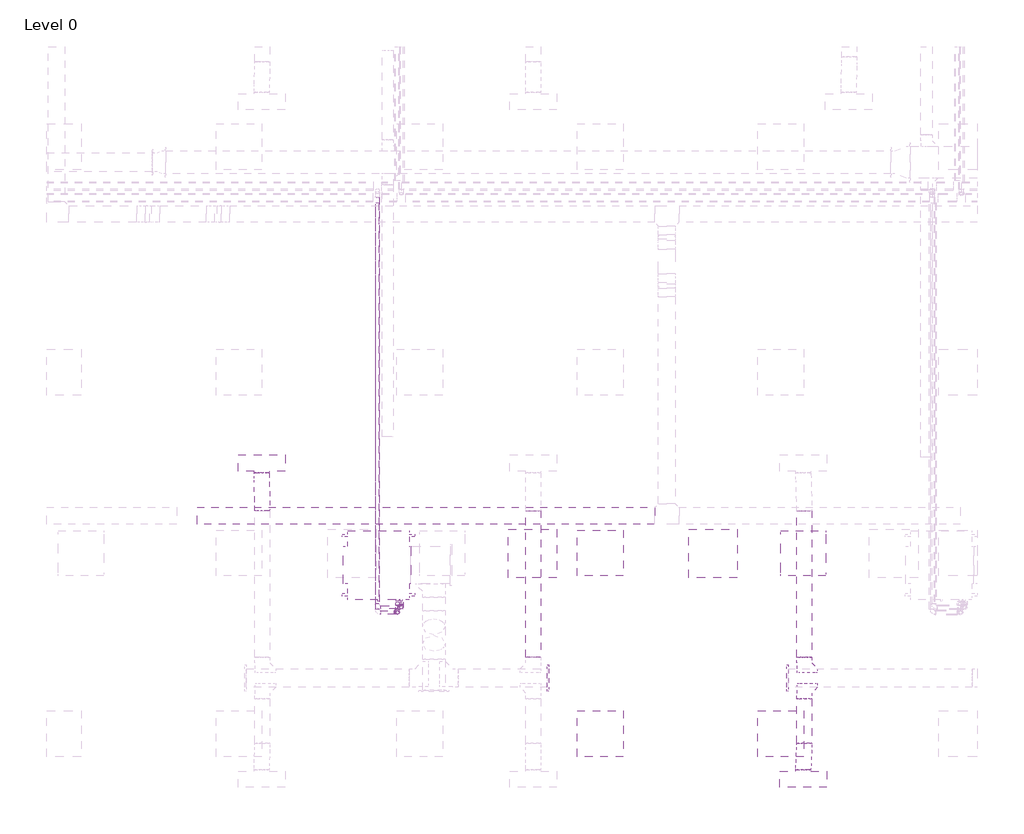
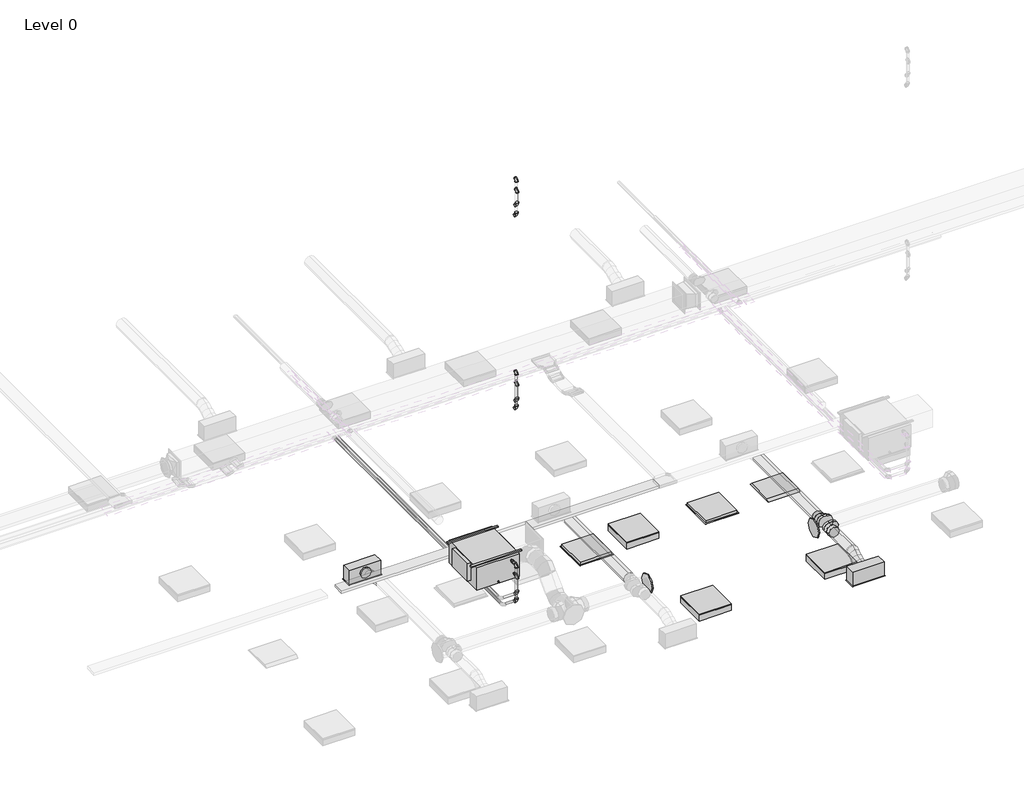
# One storey, part 9 of 34: 14 pipe fittings, 11 pipe segments, 5 duct segments, 4 air terminals, 4 duct fittings, 4 light fixtures, 1 cable carrier segment, 1 proxy.
"""IFC4 building model written with IfcOpenShell, lengths in millimetres."""

from ifc_helpers import new_model, si_unit, point, frame, frame_2d, origin, place, context, project, spatial, polyline, circle_curve, ellipse_curve, trimmed, segment, composite_curve, outline, extrude, transform, mapped, element, save
from ifc_brep_helpers import plane_surface, cylinder_surface, advanced_brep
from components import return_grille_rectangular_hosted_standard_7b12617c, supply_diffuser_with_plenum_linear_slot_hosted_2b730595, fan_coil_unit_ceiling_ducted_chw_376_lps_d7d55c98, dw144_round_blank_end_standard_9aa061e7, dw144_round_shoe_branch_slip_joint1_standard_2_15a2edd8, light_fixture_b730b5ca, troffer_light_2x2_parabolic_2_x2_2_lamp_120v_6a063ff3, elbow_threaded_gmi_standard_b4aa7741, socket_reducing_threaded_gmi_standard_0a4076b8

model = new_model("IFC4")

# Units and contexts
model_context = context("Model", 3, world=origin())
ifc_project = project(units=[si_unit("LENGTHUNIT", "METRE", prefix="MILLI")], contexts=[model_context])

# Site, building, storey
site = spatial("IfcSite", under=ifc_project)
building = spatial("IfcBuilding", under=site)
storey = spatial("IfcBuildingStorey", under=building, Name="Level 0", Elevation=0.0)

# Air terminals
placement = place(None, origin())
return_grille_rectangular_hosted_standard_shape = return_grille_rectangular_hosted_standard_7b12617c(model_context)
element("IfcAirTerminal", 1, ObjectType="Return Grille - Rectangular - Hosted : Standard", at=placement, inside=storey, context=model_context, shape_type="MappedRepresentation", body=[
    mapped(return_grille_rectangular_hosted_standard_shape, transform((19962.2000027, 3963.2000004, 2800.0), x_axis=(1.0, 0.0, 0.0), y_axis=(0.0, -1.0, 0.0), z_axis=(0.0, 0.0, -1.0))),
])
element("IfcAirTerminal", 2, ObjectType="Return Grille - Rectangular - Hosted : Standard", at=placement, inside=storey, context=model_context, shape_type="MappedRepresentation", body=[
    mapped(return_grille_rectangular_hosted_standard_shape, transform((22362.2000027, 3963.2000004, 2800.0), x_axis=(0.0, -1.0, 0.0), y_axis=(-1.0, 0.0, 0.0), z_axis=(0.0, 0.0, -1.0))),
])
supply_diffuser_with_plenum_linear_slot_hosted_shape = supply_diffuser_with_plenum_linear_slot_hosted_2b730595(model_context)
element("IfcAirTerminal", 3, ObjectType="Supply Diffuser with Plenum - Linear Slot - Hosted : 24\" x 8\"-200 In Inlet  4-Slot", at=placement, inside=storey, context=model_context, shape_type="MappedRepresentation", body=[
    mapped(supply_diffuser_with_plenum_linear_slot_hosted_shape, transform((23562.2000027, 963.2000004, 2800.0), x_axis=(1.0, 0.0, 0.0), y_axis=(0.0, -1.0, 0.0), z_axis=(0.0, 0.0, -1.0))),
])
element("IfcAirTerminal", 4, ObjectType="Supply Diffuser with Plenum - Linear Slot - Hosted : 24\" x 8\"-200 In Inlet  4-Slot", at=placement, inside=storey, context=model_context, shape_type="MappedRepresentation", body=[
    mapped(supply_diffuser_with_plenum_linear_slot_hosted_shape, transform((16362.2000027, 5163.2000004, 2800.0), x_axis=(-1.0, 0.0, 0.0), y_axis=(0.0, 1.0, 0.0), z_axis=(0.0, 0.0, -1.0))),
])

# Proxy
fan_coil_unit_ceiling_ducted_chw_376_lps_shape = fan_coil_unit_ceiling_ducted_chw_376_lps_d7d55c98(model_context)
element("IfcBuildingElementProxy", 5, Name="Fan Coil Unit - Ceiling Ducted - CHW : 376 LPS", ObjectType="Fan Coil Unit - Ceiling Ducted - CHW : 376 LPS", at=placement, inside=storey, context=model_context, shape_type="MappedRepresentation", body=[
    mapped(fan_coil_unit_ceiling_ducted_chw_376_lps_shape, transform((18321.2561025, 4263.2000004, 3222.3911538), x_axis=(0.0, -1.0, 0.0), y_axis=(1.0, 0.0, 0.0), z_axis=(0.0, 0.0, 1.0))),
])

# Cable carrier segment
element("IfcCableCarrierSegment", 6, ObjectType="Perforated Cable Tray", at=placement, inside=storey, context=model_context, shape_type="SweptSolid", body=[
    extrude(outline(polyline([(21585.0028601, 4572.4103775), (21585.0028601, 4347.4103775), (15505.0028601, 4347.4103775), (15505.0028601, 4572.4103775), (21585.0028601, 4572.4103775)])), frame((0.0, 0.0, 3250.0), z_axis=(0.0, 0.0, 1.0), x_axis=(1.0, 0.0, 0.0)), (0.0, 0.0, 1.0), 50.0),
])

# Duct fittings
dw144_round_blank_end_standard_shape = dw144_round_blank_end_standard_9aa061e7(model_context)
element("IfcDuctFitting", 7, ObjectType="DW144 Round Blank End : Standard", at=placement, inside=storey, context=model_context, shape_type="MappedRepresentation", body=[
    mapped(dw144_round_blank_end_standard_shape, transform((20161.4561025, 2306.5018192, 3072.2088531), x_axis=(1.0, 0.0, 0.0), y_axis=(0.0, 1.0, 0.0), z_axis=(0.0, 0.0, 1.0))),
])
element("IfcDuctFitting", 8, ObjectType="DW144 Round Blank End : Standard", at=placement, inside=storey, context=model_context, shape_type="MappedRepresentation", body=[
    mapped(dw144_round_blank_end_standard_shape, transform((23361.4561025, 2306.5018192, 3072.2088531), x_axis=(-1.0, 0.0, 0.0), y_axis=(0.0, -1.0, 0.0), z_axis=(0.0, 0.0, 1.0))),
])
dw144_round_shoe_branch_slip_joint1_standard_2_shape = dw144_round_shoe_branch_slip_joint1_standard_2_15a2edd8(model_context)
element("IfcDuctFitting", 9, ObjectType="DW144 Round Shoe Branch - Slip Joint1 : Standard 2", at=placement, inside=storey, context=model_context, shape_type="MappedRepresentation", body=[
    mapped(dw144_round_shoe_branch_slip_joint1_standard_2_shape, transform((23573.9000022, 2181.5018192, 3072.2088531), x_axis=(0.0, -1.0, 0.0), y_axis=(-1.0, 0.0, 0.0), z_axis=(0.0, 0.0, -1.0))),
])
element("IfcDuctFitting", 10, ObjectType="DW144 Round Shoe Branch - Slip Joint1 : Standard 2", at=placement, inside=storey, context=model_context, shape_type="MappedRepresentation", body=[
    mapped(dw144_round_shoe_branch_slip_joint1_standard_2_shape, transform((23573.9000022, 2431.5018192, 3072.2088531), x_axis=(0.0, 1.0, 0.0), y_axis=(-1.0, 0.0, 0.0), z_axis=(0.0, 0.0, 1.0))),
])

# Duct segments
element("IfcDuctSegment", 11, ObjectType="DW144 Segmented Bend / Shoe Branch", at=placement, inside=storey, context=model_context, shape_type="SweptSolid", body=[
    extrude(outline(composite_curve([segment(trimmed(circle_curve(frame_2d((3072.2088531, 19973.9000022)), 100.0), [point((3072.2088531, 20073.9000022))], [point((3172.2088531, 19973.9000022))], False, "CARTESIAN"), True, "CONTINUOUS"), segment(trimmed(circle_curve(frame_2d((3072.2088531, 19973.9000022)), 100.0), [point((3172.2088531, 19973.9000022))], [point((3072.2088531, 19873.9000022))], False, "CARTESIAN"), True, "CONTINUOUS"), segment(trimmed(circle_curve(frame_2d((3072.2088531, 19973.9000022)), 100.0), [point((3072.2088531, 19873.9000022))], [point((2972.2088531, 19973.9000022))], False, "CARTESIAN"), True, "CONTINUOUS"), segment(trimmed(circle_curve(frame_2d((3072.2088531, 19973.9000022)), 100.0), [point((2972.2088531, 19973.9000022))], [point((3072.2088531, 20073.9000022))], False, "CARTESIAN"), True, "CONTINUOUS")], self_intersect=False)), frame((0.0, 2581.5018192, 0.0), z_axis=(0.0, 1.0, 0.0), x_axis=(0.0, 0.0, 1.0)), (0.0, 0.0, 1.0), 1950.0),
])
element("IfcDuctSegment", 12, ObjectType="DW144 Segmented Bend / Shoe Branch", at=placement, inside=storey, context=model_context, shape_type="SweptSolid", body=[
    extrude(outline(composite_curve([segment(trimmed(circle_curve(frame_2d((3072.2088531, 23573.9000022)), 100.0), [point((3072.2088531, 23673.9000022))], [point((3172.2088531, 23573.9000022))], False, "CARTESIAN"), True, "CONTINUOUS"), segment(trimmed(circle_curve(frame_2d((3072.2088531, 23573.9000022)), 100.0), [point((3172.2088531, 23573.9000022))], [point((3072.2088531, 23473.9000022))], False, "CARTESIAN"), True, "CONTINUOUS"), segment(trimmed(circle_curve(frame_2d((3072.2088531, 23573.9000022)), 100.0), [point((3072.2088531, 23473.9000022))], [point((2972.2088531, 23573.9000022))], False, "CARTESIAN"), True, "CONTINUOUS"), segment(trimmed(circle_curve(frame_2d((3072.2088531, 23573.9000022)), 100.0), [point((2972.2088531, 23573.9000022))], [point((3072.2088531, 23673.9000022))], False, "CARTESIAN"), True, "CONTINUOUS")], self_intersect=False)), frame((0.0, 1441.5018192, 0.0), z_axis=(0.0, 1.0, 0.0), x_axis=(0.0, 0.0, 1.0)), (0.0, 0.0, 1.0), 590.0),
])
element("IfcDuctSegment", 13, ObjectType="DW144 Segmented Bend / Shoe Branch", at=placement, inside=storey, context=model_context, shape_type="SweptSolid", body=[
    extrude(outline(composite_curve([segment(trimmed(circle_curve(frame_2d((3072.2088531, 23573.9000022)), 100.0), [point((3072.2088531, 23673.9000022))], [point((3172.2088531, 23573.9000022))], False, "CARTESIAN"), True, "CONTINUOUS"), segment(trimmed(circle_curve(frame_2d((3072.2088531, 23573.9000022)), 100.0), [point((3172.2088531, 23573.9000022))], [point((3072.2088531, 23473.9000022))], False, "CARTESIAN"), True, "CONTINUOUS"), segment(trimmed(circle_curve(frame_2d((3072.2088531, 23573.9000022)), 100.0), [point((3072.2088531, 23473.9000022))], [point((2972.2088531, 23573.9000022))], False, "CARTESIAN"), True, "CONTINUOUS"), segment(trimmed(circle_curve(frame_2d((3072.2088531, 23573.9000022)), 100.0), [point((2972.2088531, 23573.9000022))], [point((3072.2088531, 23673.9000022))], False, "CARTESIAN"), True, "CONTINUOUS")], self_intersect=False)), frame((0.0, 2581.5018192, 0.0), z_axis=(0.0, 1.0, 0.0), x_axis=(0.0, 0.0, 1.0)), (0.0, 0.0, 1.0), 1950.0),
])
element("IfcDuctSegment", 14, ObjectType="Flex - Round", at=placement, inside=storey, context=model_context, shape_type="AdvancedBrep", body=[
    advanced_brep(
    [(16273.9000022, 4531.5018192, 3072.2088531), (16373.9000022, 4531.5018192, 2972.2088531), (16473.9000022, 4531.5018192, 3072.2088531), (16373.9000022, 4531.5018192, 3172.2088531), (16273.9000022, 4544.9917141, 3072.2088531), (16373.9000022, 4537.7147353, 2972.2088531), (16473.9000022, 4546.5964935, 3072.2088531), (16373.9000022, 4553.8734723, 3172.2088531), (16262.2000027, 5036.2000004, 2954.4), (16362.2000027, 5036.2000004, 3054.4), (16462.2000027, 5036.2000004, 2954.4), (16362.2000027, 5036.2000004, 2854.4), (16272.0967445, 4656.6189403, 3054.0516107), (16372.3222682, 4635.3813467, 2956.322439), (16472.0470101, 4661.3024295, 3053.5508289), (16371.8214864, 4682.5400231, 3151.2800006), (16268.0980601, 4780.789038, 3013.7883253), (16368.5339011, 4753.0205151, 2918.1768669), (16468.0019448, 4786.9127816, 3012.8205279), (16367.5661038, 4814.6813046, 3108.4319862), (16264.0529948, 4906.3993902, 2973.0580242), (16364.2785185, 4885.1617966, 2875.3288525), (16464.0032604, 4911.0828794, 2972.5572424), (16363.7777367, 4932.320473, 3070.2864141), (16262.2000027, 5021.1053262, 2954.4), (16362.2000027, 5013.8283474, 2854.4), (16462.2000027, 5022.7101055, 2954.4), (16362.2000027, 5029.9870843, 3054.4)],
    [
        (0, 1, circle_curve(frame((16373.9000022, 4531.5018192, 3072.2088531), z_axis=(0.0, -1.0, 0.0), x_axis=(-1.0, 0.0, 0.0)), 100.0)),
        (1, 2, circle_curve(frame((16373.9000022, 4531.5018192, 3072.2088531), z_axis=(0.0, -1.0, 0.0), x_axis=(-1.0, 0.0, 0.0)), 100.0)),
        (2, 3, circle_curve(frame((16373.9000022, 4531.5018192, 3072.2088531), z_axis=(0.0, -1.0, 0.0), x_axis=(-1.0, 0.0, 0.0)), 100.0)),
        (3, 0, circle_curve(frame((16373.9000022, 4531.5018192, 3072.2088531), z_axis=(0.0, -1.0, 0.0), x_axis=(-1.0, 0.0, 0.0)), 100.0)),
        (0, 4),
        (4, 5, ellipse_curve(frame((16373.9000022, 4545.7941038, 3072.2088531), z_axis=(0.007997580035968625, -0.996720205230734, 0.08052869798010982), x_axis=(-0.0985031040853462, -0.08092485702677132, -0.9918408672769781)), 100.3290587, 100.0)),
        (5, 1),
        (5, 6, ellipse_curve(frame((16373.9000022, 4545.7941038, 3072.2088531), z_axis=(0.007997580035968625, -0.996720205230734, 0.08052869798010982), x_axis=(-0.0985031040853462, -0.08092485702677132, -0.9918408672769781)), 100.3290587, 100.0)),
        (6, 2),
        (6, 7, ellipse_curve(frame((16373.9000022, 4545.7941038, 3072.2088531), z_axis=(0.007997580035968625, -0.996720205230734, 0.08052869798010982), x_axis=(-0.0985031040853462, -0.08092485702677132, -0.9918408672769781)), 100.3290587, 100.0)),
        (7, 3),
        (7, 4, ellipse_curve(frame((16373.9000022, 4545.7941038, 3072.2088531), z_axis=(0.007997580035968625, -0.996720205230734, 0.08052869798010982), x_axis=(-0.0985031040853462, -0.08092485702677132, -0.9918408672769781)), 100.3290587, 100.0)),
        (8, 9, circle_curve(frame((16362.2000027, 5036.2000004, 2954.4), z_axis=(0.0, 1.0, 0.0), x_axis=(-1.0, 0.0, 0.0)), 100.0)),
        (9, 10, circle_curve(frame((16362.2000027, 5036.2000004, 2954.4), z_axis=(0.0, 1.0, 0.0), x_axis=(-1.0, 0.0, 0.0)), 100.0)),
        (10, 11, circle_curve(frame((16362.2000027, 5036.2000004, 2954.4), z_axis=(0.0, 1.0, 0.0), x_axis=(-1.0, 0.0, 0.0)), 100.0)),
        (11, 8, circle_curve(frame((16362.2000027, 5036.2000004, 2954.4), z_axis=(0.0, 1.0, 0.0), x_axis=(-1.0, 0.0, 0.0)), 100.0)),
        (4, 12),
        (12, 13, ellipse_curve(frame((16372.0718773, 4658.9606849, 3053.8012198), z_axis=(0.0233489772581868, -0.9716897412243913, 0.2351039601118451), x_axis=(-0.09602941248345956, -0.23626054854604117, -0.9669329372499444)), 100.2932412, 100.0)),
        (13, 5),
        (13, 14, ellipse_curve(frame((16372.0718773, 4658.9606849, 3053.8012198), z_axis=(0.0233489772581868, -0.9716897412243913, 0.2351039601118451), x_axis=(-0.09602941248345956, -0.23626054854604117, -0.9669329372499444)), 100.2932412, 100.0)),
        (14, 6),
        (14, 15, ellipse_curve(frame((16372.0718773, 4658.9606849, 3053.8012198), z_axis=(0.0233489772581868, -0.9716897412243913, 0.2351039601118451), x_axis=(-0.09602941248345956, -0.23626054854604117, -0.9669329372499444)), 100.2932412, 100.0)),
        (15, 7),
        (15, 12, ellipse_curve(frame((16372.0718773, 4658.9606849, 3053.8012198), z_axis=(0.0233489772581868, -0.9716897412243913, 0.2351039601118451), x_axis=(-0.09602941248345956, -0.23626054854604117, -0.9669329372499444)), 100.2932412, 100.0)),
        (12, 16),
        (16, 17, circle_curve(frame((16368.0500024, 4783.8509098, 3013.3044266), z_axis=(0.030618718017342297, -0.9507950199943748, 0.3083039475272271), x_axis=(-0.9995194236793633, -0.03061871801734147, 0.004838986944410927)), 100.0)),
        (17, 13),
        (17, 18, circle_curve(frame((16368.0500024, 4783.8509098, 3013.3044266), z_axis=(0.030618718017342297, -0.9507950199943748, 0.3083039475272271), x_axis=(-0.9995194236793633, -0.03061871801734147, 0.004838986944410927)), 100.0)),
        (18, 14),
        (18, 19, circle_curve(frame((16368.0500024, 4783.8509098, 3013.3044266), z_axis=(0.030618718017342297, -0.9507950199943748, 0.3083039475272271), x_axis=(-0.9995194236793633, -0.03061871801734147, 0.004838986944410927)), 100.0)),
        (19, 15),
        (19, 16, circle_curve(frame((16368.0500024, 4783.8509098, 3013.3044266), z_axis=(0.030618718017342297, -0.9507950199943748, 0.3083039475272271), x_axis=(-0.9995194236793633, -0.03061871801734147, 0.004838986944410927)), 100.0)),
        (16, 20),
        (20, 21, ellipse_curve(frame((16364.0281276, 4908.7411348, 2972.8076333), z_axis=(0.02334897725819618, -0.9716897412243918, 0.2351039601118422), x_axis=(0.09602941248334, 0.23626054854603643, 0.9669329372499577)), 100.2932412, 100.0)),
        (21, 17),
        (21, 22, ellipse_curve(frame((16364.0281276, 4908.7411348, 2972.8076333), z_axis=(0.02334897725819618, -0.9716897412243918, 0.2351039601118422), x_axis=(0.09602941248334, 0.23626054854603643, 0.9669329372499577)), 100.2932412, 100.0)),
        (22, 18),
        (22, 23, ellipse_curve(frame((16364.0281276, 4908.7411348, 2972.8076333), z_axis=(0.02334897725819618, -0.9716897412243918, 0.2351039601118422), x_axis=(0.09602941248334, 0.23626054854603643, 0.9669329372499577)), 100.2932412, 100.0)),
        (23, 19),
        (23, 20, ellipse_curve(frame((16364.0281276, 4908.7411348, 2972.8076333), z_axis=(0.02334897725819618, -0.9716897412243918, 0.2351039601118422), x_axis=(0.09602941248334, 0.23626054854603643, 0.9669329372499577)), 100.2932412, 100.0)),
        (20, 24),
        (24, 25, ellipse_curve(frame((16362.2000027, 5021.9077159, 2954.4), z_axis=(0.007997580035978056, -0.9967202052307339, 0.08052869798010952), x_axis=(0.09850310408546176, 0.08092485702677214, 0.9918408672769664)), 100.3290587, 100.0)),
        (25, 21),
        (25, 26, ellipse_curve(frame((16362.2000027, 5021.9077159, 2954.4), z_axis=(0.007997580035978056, -0.9967202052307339, 0.08052869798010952), x_axis=(0.09850310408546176, 0.08092485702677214, 0.9918408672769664)), 100.3290587, 100.0)),
        (26, 22),
        (26, 27, ellipse_curve(frame((16362.2000027, 5021.9077159, 2954.4), z_axis=(0.007997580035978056, -0.9967202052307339, 0.08052869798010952), x_axis=(0.09850310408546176, 0.08092485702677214, 0.9918408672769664)), 100.3290587, 100.0)),
        (27, 23),
        (27, 24, ellipse_curve(frame((16362.2000027, 5021.9077159, 2954.4), z_axis=(0.007997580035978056, -0.9967202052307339, 0.08052869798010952), x_axis=(0.09850310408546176, 0.08092485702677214, 0.9918408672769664)), 100.3290587, 100.0)),
        (24, 8),
        (11, 25),
        (10, 26),
        (9, 27),
    ],
    [
        plane_surface(frame((16273.9000022, 4531.5018192, 3072.2088531), z_axis=(0.0, -1.0, 0.0), x_axis=(0.0, 0.0, 1.0))),
        cylinder_surface(frame((16373.9000022, 4531.5018192, 3072.2088531), z_axis=(0.0, -1.0, 0.0), x_axis=(-1.0, 0.0, 0.0)), 100.0),
        plane_surface(frame((16262.2000027, 5036.2000004, 2954.4), z_axis=(0.0, 1.0, 0.0), x_axis=(0.0, 0.0, 1.0))),
        cylinder_surface(frame((16373.9000022, 4545.7941038, 3072.2088531), z_axis=(0.01594269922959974, -0.9869023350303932, 0.16052916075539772), x_axis=(-0.9998720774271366, -0.01594269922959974, 0.0012880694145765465)), 100.0),
        cylinder_surface(frame((16372.0718773, 4658.9606849, 3053.8012198), z_axis=(0.030618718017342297, -0.9507950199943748, 0.3083039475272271), x_axis=(-0.9995194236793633, -0.03061871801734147, 0.004838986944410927)), 100.0),
        cylinder_surface(frame((16368.0500024, 4783.8509098, 3013.3044266), z_axis=(0.030618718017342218, -0.9507950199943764, 0.30830394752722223), x_axis=(-0.9995194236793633, -0.03061871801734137, 0.0048389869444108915)), 100.0),
        cylinder_surface(frame((16364.0281276, 4908.7411348, 2972.8076333), z_axis=(0.015942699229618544, -0.9869023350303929, 0.16052916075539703), x_axis=(-0.9998720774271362, -0.015942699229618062, 0.001288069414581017)), 100.0),
        cylinder_surface(frame((16362.2000027, 5021.9077159, 2954.4), z_axis=(0.0, -1.0, 0.0), x_axis=(-1.0, 0.0, 0.0)), 100.0),
    ],
    [
        (0, [[1, 2, 3, 4]]),
        (1, [[-1, 5, 6, 7]]),
        (1, [[-2, -7, 8, 9]]),
        (1, [[-3, -9, 10, 11]]),
        (1, [[-4, -11, 12, -5]]),
        (2, [[13, 14, 15, 16]]),
        (3, [[-6, 17, 18, 19]]),
        (3, [[-8, -19, 20, 21]]),
        (3, [[-10, -21, 22, 23]]),
        (3, [[-12, -23, 24, -17]]),
        (4, [[-18, 25, 26, 27]]),
        (4, [[-20, -27, 28, 29]]),
        (4, [[-22, -29, 30, 31]]),
        (4, [[-24, -31, 32, -25]]),
        (5, [[-26, 33, 34, 35]]),
        (5, [[-28, -35, 36, 37]]),
        (5, [[-30, -37, 38, 39]]),
        (5, [[-32, -39, 40, -33]]),
        (6, [[-34, 41, 42, 43]]),
        (6, [[-36, -43, 44, 45]]),
        (6, [[-38, -45, 46, 47]]),
        (6, [[-40, -47, 48, -41]]),
        (7, [[-42, 49, -16, 50]]),
        (7, [[-44, -50, -15, 51]]),
        (7, [[-46, -51, -14, 52]]),
        (7, [[-48, -52, -13, -49]]),
    ],
),
])
element("IfcDuctSegment", 15, ObjectType="Flex - Round", at=placement, inside=storey, context=model_context, shape_type="AdvancedBrep", body=[
    advanced_brep(
    [(23673.9000022, 1441.5018192, 3072.2088531), (23573.9000022, 1441.5018192, 2972.2088531), (23473.9000022, 1441.5018192, 3072.2088531), (23573.9000022, 1441.5018192, 3172.2088531), (23673.9000022, 1420.0995917, 3072.2088531), (23573.9000022, 1434.401614, 2972.2088531), (23473.9000022, 1422.6837186, 3072.2088531), (23573.9000022, 1408.3816962, 3172.2088531), (23662.2000027, 1090.2000004, 2954.4), (23562.2000027, 1090.2000004, 3054.4), (23462.2000027, 1090.2000004, 2954.4), (23562.2000027, 1090.2000004, 2854.4), (23672.0161428, 1348.4444846, 3053.2400219), (23572.6330752, 1386.2123534, 2959.4519962), (23472.1276118, 1355.2684822, 3054.3624177), (23571.5106794, 1317.5006134, 3148.1504435), (23667.9561574, 1261.6239384, 3012.3594887), (23568.9949403, 1308.4128474, 2922.8191318), (23468.1438475, 1270.0778812, 3014.2493644), (23567.1050646, 1223.2889723, 3103.7897213), (23663.9723931, 1176.4333374, 2972.2464354), (23564.5893255, 1214.2012062, 2878.4584097), (23464.0838621, 1183.257335, 2973.3688312), (23563.4669297, 1145.4894662, 3067.1568569), (23662.2000027, 1109.0181011, 2954.4), (23562.2000027, 1123.3201234, 2854.4), (23462.2000027, 1111.602228, 2954.4), (23562.2000027, 1097.3002057, 3054.4)],
    [
        (0, 1, circle_curve(frame((23573.9000022, 1441.5018192, 3072.2088531), z_axis=(0.0, 1.0, 0.0), x_axis=(1.0, 0.0, 0.0)), 100.0)),
        (1, 2, circle_curve(frame((23573.9000022, 1441.5018192, 3072.2088531), z_axis=(0.0, 1.0, 0.0), x_axis=(1.0, 0.0, 0.0)), 100.0)),
        (2, 3, circle_curve(frame((23573.9000022, 1441.5018192, 3072.2088531), z_axis=(0.0, 1.0, 0.0), x_axis=(1.0, 0.0, 0.0)), 100.0)),
        (3, 0, circle_curve(frame((23573.9000022, 1441.5018192, 3072.2088531), z_axis=(0.0, 1.0, 0.0), x_axis=(1.0, 0.0, 0.0)), 100.0)),
        (0, 4),
        (4, 5, ellipse_curve(frame((23573.9000022, 1421.3916551, 3072.2088531), z_axis=(0.01281160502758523, 0.9915616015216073, 0.1290017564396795), x_axis=(-0.097993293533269, 0.12963637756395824, -0.9867075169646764)), 100.8510211, 100.0)),
        (5, 1),
        (5, 6, ellipse_curve(frame((23573.9000022, 1421.3916551, 3072.2088531), z_axis=(0.01281160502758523, 0.9915616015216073, 0.1290017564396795), x_axis=(-0.097993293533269, 0.12963637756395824, -0.9867075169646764)), 100.8510211, 100.0)),
        (6, 2),
        (6, 7, ellipse_curve(frame((23573.9000022, 1421.3916551, 3072.2088531), z_axis=(0.01281160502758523, 0.9915616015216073, 0.1290017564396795), x_axis=(-0.097993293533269, 0.12963637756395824, -0.9867075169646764)), 100.8510211, 100.0)),
        (7, 3),
        (7, 4, ellipse_curve(frame((23573.9000022, 1421.3916551, 3072.2088531), z_axis=(0.01281160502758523, 0.9915616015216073, 0.1290017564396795), x_axis=(-0.097993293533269, 0.12963637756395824, -0.9867075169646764)), 100.8510211, 100.0)),
        (8, 9, circle_curve(frame((23562.2000027, 1090.2000004, 2954.4), z_axis=(0.0, -1.0, 0.0), x_axis=(1.0, 0.0, 0.0)), 100.0)),
        (9, 10, circle_curve(frame((23562.2000027, 1090.2000004, 2954.4), z_axis=(0.0, -1.0, 0.0), x_axis=(1.0, 0.0, 0.0)), 100.0)),
        (10, 11, circle_curve(frame((23562.2000027, 1090.2000004, 2954.4), z_axis=(0.0, -1.0, 0.0), x_axis=(1.0, 0.0, 0.0)), 100.0)),
        (11, 8, circle_curve(frame((23562.2000027, 1090.2000004, 2954.4), z_axis=(0.0, -1.0, 0.0), x_axis=(1.0, 0.0, 0.0)), 100.0)),
        (4, 12),
        (12, 13, ellipse_curve(frame((23572.0718773, 1351.8564834, 3053.8012198), z_axis=(0.03397887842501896, 0.9390352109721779, 0.34213784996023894), x_axis=(-0.09280225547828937, 0.34382098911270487, -0.9344382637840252)), 100.4152859, 100.0)),
        (13, 5),
        (13, 14, ellipse_curve(frame((23572.0718773, 1351.8564834, 3053.8012198), z_axis=(0.03397887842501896, 0.9390352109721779, 0.34213784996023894), x_axis=(-0.09280225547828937, 0.34382098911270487, -0.9344382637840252)), 100.4152859, 100.0)),
        (14, 6),
        (14, 15, ellipse_curve(frame((23572.0718773, 1351.8564834, 3053.8012198), z_axis=(0.03397887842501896, 0.9390352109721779, 0.34213784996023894), x_axis=(-0.09280225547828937, 0.34382098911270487, -0.9344382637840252)), 100.4152859, 100.0)),
        (15, 7),
        (15, 12, ellipse_curve(frame((23572.0718773, 1351.8564834, 3053.8012198), z_axis=(0.03397887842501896, 0.9390352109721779, 0.34213784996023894), x_axis=(-0.09280225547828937, 0.34382098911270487, -0.9344382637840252)), 100.4152859, 100.0)),
        (12, 16),
        (16, 17, circle_curve(frame((23568.0500024, 1265.8509098, 3013.3044266), z_axis=(0.042269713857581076, 0.9039144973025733, 0.42561937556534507), x_axis=(0.9990615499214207, -0.0422697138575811, -0.009449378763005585)), 100.0)),
        (17, 13),
        (17, 18, circle_curve(frame((23568.0500024, 1265.8509098, 3013.3044266), z_axis=(0.042269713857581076, 0.9039144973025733, 0.42561937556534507), x_axis=(0.9990615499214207, -0.0422697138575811, -0.009449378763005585)), 100.0)),
        (18, 14),
        (18, 19, circle_curve(frame((23568.0500024, 1265.8509098, 3013.3044266), z_axis=(0.042269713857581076, 0.9039144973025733, 0.42561937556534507), x_axis=(0.9990615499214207, -0.0422697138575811, -0.009449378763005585)), 100.0)),
        (19, 15),
        (19, 16, circle_curve(frame((23568.0500024, 1265.8509098, 3013.3044266), z_axis=(0.042269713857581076, 0.9039144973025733, 0.42561937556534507), x_axis=(0.9990615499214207, -0.0422697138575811, -0.009449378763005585)), 100.0)),
        (16, 20),
        (20, 21, ellipse_curve(frame((23564.0281276, 1179.8453362, 2972.8076333), z_axis=(0.03397887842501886, 0.9390352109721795, 0.3421378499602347), x_axis=(0.09280225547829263, -0.3438209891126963, 0.9344382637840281)), 100.4152859, 100.0)),
        (21, 17),
        (21, 22, ellipse_curve(frame((23564.0281276, 1179.8453362, 2972.8076333), z_axis=(0.03397887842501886, 0.9390352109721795, 0.3421378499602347), x_axis=(0.09280225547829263, -0.3438209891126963, 0.9344382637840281)), 100.4152859, 100.0)),
        (22, 18),
        (22, 23, ellipse_curve(frame((23564.0281276, 1179.8453362, 2972.8076333), z_axis=(0.03397887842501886, 0.9390352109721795, 0.3421378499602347), x_axis=(0.09280225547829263, -0.3438209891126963, 0.9344382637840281)), 100.4152859, 100.0)),
        (23, 19),
        (23, 20, ellipse_curve(frame((23564.0281276, 1179.8453362, 2972.8076333), z_axis=(0.03397887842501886, 0.9390352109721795, 0.3421378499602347), x_axis=(0.09280225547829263, -0.3438209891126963, 0.9344382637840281)), 100.4152859, 100.0)),
        (20, 24),
        (24, 25, ellipse_curve(frame((23562.2000027, 1110.3101645, 2954.4), z_axis=(0.012811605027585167, 0.9915616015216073, 0.1290017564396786), x_axis=(0.09799329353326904, -0.12963637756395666, 0.9867075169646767)), 100.8510211, 100.0)),
        (25, 21),
        (25, 26, ellipse_curve(frame((23562.2000027, 1110.3101645, 2954.4), z_axis=(0.012811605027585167, 0.9915616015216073, 0.1290017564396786), x_axis=(0.09799329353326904, -0.12963637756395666, 0.9867075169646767)), 100.8510211, 100.0)),
        (26, 22),
        (26, 27, ellipse_curve(frame((23562.2000027, 1110.3101645, 2954.4), z_axis=(0.012811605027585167, 0.9915616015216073, 0.1290017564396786), x_axis=(0.09799329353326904, -0.12963637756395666, 0.9867075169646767)), 100.8510211, 100.0)),
        (27, 23),
        (27, 24, ellipse_curve(frame((23562.2000027, 1110.3101645, 2954.4), z_axis=(0.012811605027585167, 0.9915616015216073, 0.1290017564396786), x_axis=(0.09799329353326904, -0.12963637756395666, 0.9867075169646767)), 100.8510211, 100.0)),
        (24, 8),
        (11, 25),
        (10, 26),
        (9, 27),
    ],
    [
        plane_surface(frame((23473.9000022, 1441.5018192, 3072.2088531), z_axis=(0.0, 1.0, 0.0), x_axis=(0.0, 0.0, -1.0))),
        cylinder_surface(frame((23573.9000022, 1441.5018192, 3072.2088531), z_axis=(0.0, 1.0, 0.0), x_axis=(1.0, 0.0, 0.0)), 100.0),
        plane_surface(frame((23462.2000027, 1090.2000004, 2954.4), z_axis=(0.0, -1.0, 0.0), x_axis=(0.0, 0.0, -1.0))),
        cylinder_surface(frame((23573.9000022, 1421.3916551, 3072.2088531), z_axis=(0.025406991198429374, 0.9663888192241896, 0.25582637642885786), x_axis=(0.9996717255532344, -0.025406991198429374, -0.003305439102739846)), 100.0),
        cylinder_surface(frame((23572.0718773, 1351.8564834, 3053.8012198), z_axis=(0.042269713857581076, 0.9039144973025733, 0.42561937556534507), x_axis=(0.9990615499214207, -0.0422697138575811, -0.009449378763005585)), 100.0),
        cylinder_surface(frame((23568.0500024, 1265.8509098, 3013.3044266), z_axis=(0.042269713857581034, 0.9039144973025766, 0.4256193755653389), x_axis=(0.9990615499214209, -0.042269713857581, -0.00944937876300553)), 100.0),
        cylinder_surface(frame((23564.0281276, 1179.8453362, 2972.8076333), z_axis=(0.02540699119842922, 0.9663888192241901, 0.25582637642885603), x_axis=(0.9996717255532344, -0.02540699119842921, -0.003305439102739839)), 100.0),
        cylinder_surface(frame((23562.2000027, 1110.3101645, 2954.4), z_axis=(0.0, 1.0, 0.0), x_axis=(1.0, 0.0, 0.0)), 100.0),
    ],
    [
        (0, [[1, 2, 3, 4]]),
        (1, [[-1, 5, 6, 7]]),
        (1, [[-2, -7, 8, 9]]),
        (1, [[-3, -9, 10, 11]]),
        (1, [[-4, -11, 12, -5]]),
        (2, [[13, 14, 15, 16]]),
        (3, [[-6, 17, 18, 19]]),
        (3, [[-8, -19, 20, 21]]),
        (3, [[-10, -21, 22, 23]]),
        (3, [[-12, -23, 24, -17]]),
        (4, [[-18, 25, 26, 27]]),
        (4, [[-20, -27, 28, 29]]),
        (4, [[-22, -29, 30, 31]]),
        (4, [[-24, -31, 32, -25]]),
        (5, [[-26, 33, 34, 35]]),
        (5, [[-28, -35, 36, 37]]),
        (5, [[-30, -37, 38, 39]]),
        (5, [[-32, -39, 40, -33]]),
        (6, [[-34, 41, 42, 43]]),
        (6, [[-36, -43, 44, 45]]),
        (6, [[-38, -45, 46, 47]]),
        (6, [[-40, -47, 48, -41]]),
        (7, [[-42, 49, -16, 50]]),
        (7, [[-44, -50, -15, 51]]),
        (7, [[-46, -51, -14, 52]]),
        (7, [[-48, -52, -13, -49]]),
    ],
),
])

# Light fixtures
light_fixture_shape = light_fixture_b730b5ca(model_context)
element("IfcLightFixture", 16, ObjectType="ELEKTRA EM Recessed Lighting Fixture : 24\" x 24\" - 230", at=placement, inside=storey, context=model_context, shape_type="MappedRepresentation", body=[
    mapped(light_fixture_shape, transform((23262.2000027, 3663.2000004, 2800.0), x_axis=(1.0, 0.0, 0.0), y_axis=(0.0, -1.0, 0.0), z_axis=(0.0, 0.0, -1.0))),
])
troffer_light_2x2_parabolic_2_x2_2_lamp_120v_shape = troffer_light_2x2_parabolic_2_x2_2_lamp_120v_6a063ff3(model_context)
element("IfcLightFixture", 17, ObjectType="Troffer Light - 2x2 Parabolic : 2'x2'(2 Lamp) - 120V", at=placement, inside=storey, context=model_context, shape_type="MappedRepresentation", body=[
    mapped(troffer_light_2x2_parabolic_2_x2_2_lamp_120v_shape, transform((20862.2000027, 1263.2000004, 2800.0), x_axis=(1.0, 0.0, 0.0), y_axis=(0.0, -1.0, 0.0), z_axis=(0.0, 0.0, -1.0))),
])
element("IfcLightFixture", 18, ObjectType="Troffer Light - 2x2 Parabolic : 2'x2'(2 Lamp) - 120V", at=placement, inside=storey, context=model_context, shape_type="MappedRepresentation", body=[
    mapped(troffer_light_2x2_parabolic_2_x2_2_lamp_120v_shape, transform((23262.2000027, 1263.2000004, 2800.0), x_axis=(1.0, 0.0, 0.0), y_axis=(0.0, -1.0, 0.0), z_axis=(0.0, 0.0, -1.0))),
])
element("IfcLightFixture", 19, ObjectType="Troffer Light - 2x2 Parabolic : 2'x2'(2 Lamp) - 120V", at=placement, inside=storey, context=model_context, shape_type="MappedRepresentation", body=[
    mapped(troffer_light_2x2_parabolic_2_x2_2_lamp_120v_shape, transform((20862.2000027, 3663.2000004, 2800.0), x_axis=(1.0, 0.0, 0.0), y_axis=(0.0, -1.0, 0.0), z_axis=(0.0, 0.0, -1.0))),
])

# Pipe fittings
elbow_threaded_gmi_standard_shape = elbow_threaded_gmi_standard_b4aa7741(model_context)
element("IfcPipeFitting", 20, ObjectType="Elbow - Threaded - GMI : Standard", at=placement, inside=storey, context=model_context, shape_type="MappedRepresentation", body=[
    mapped(elbow_threaded_gmi_standard_shape, transform((18168.8561025, 3177.232951, 10693.9343179), x_axis=(0.0, 0.0, -1.0), y_axis=(-1.0, 0.0, 0.0), z_axis=(0.0, 1.0, 0.0))),
])
element("IfcPipeFitting", 21, ObjectType="Elbow - Threaded - GMI : Standard", at=placement, inside=storey, context=model_context, shape_type="MappedRepresentation", body=[
    mapped(elbow_threaded_gmi_standard_shape, transform((18219.6561025, 3246.7427522, 10834.6193977), x_axis=(0.0, 0.0, -1.0), y_axis=(-1.0, 0.0, 0.0), z_axis=(0.0, 1.0, 0.0))),
])
element("IfcPipeFitting", 22, ObjectType="Elbow - Threaded - GMI : Standard", at=placement, inside=storey, context=model_context, shape_type="MappedRepresentation", body=[
    mapped(elbow_threaded_gmi_standard_shape, transform((18219.6561025, 3246.7427522, 11123.9911538), x_axis=(0.0, 0.0, 1.0), y_axis=(0.0, 1.0, 0.0), z_axis=(-1.0, 0.0, 0.0))),
])
element("IfcPipeFitting", 23, ObjectType="Elbow - Threaded - GMI : Standard", at=placement, inside=storey, context=model_context, shape_type="MappedRepresentation", body=[
    mapped(elbow_threaded_gmi_standard_shape, transform((18168.8561025, 3177.232951, 11403.3911538), x_axis=(0.0, 0.0, 1.0), y_axis=(0.0, 1.0, 0.0), z_axis=(-1.0, 0.0, 0.0))),
])
element("IfcPipeFitting", 24, ObjectType="Elbow - Threaded - GMI : Standard", at=placement, inside=storey, context=model_context, shape_type="MappedRepresentation", body=[
    mapped(elbow_threaded_gmi_standard_shape, transform((18168.8561025, 3177.232951, 6793.9343179), x_axis=(0.0, 0.0, -1.0), y_axis=(-1.0, 0.0, 0.0), z_axis=(0.0, 1.0, 0.0))),
])
element("IfcPipeFitting", 25, ObjectType="Elbow - Threaded - GMI : Standard", at=placement, inside=storey, context=model_context, shape_type="MappedRepresentation", body=[
    mapped(elbow_threaded_gmi_standard_shape, transform((18219.6561025, 3246.7427522, 6880.0), x_axis=(0.0, 0.0, -1.0), y_axis=(-1.0, 0.0, 0.0), z_axis=(0.0, 1.0, 0.0))),
])
element("IfcPipeFitting", 26, ObjectType="Elbow - Threaded - GMI : Standard", at=placement, inside=storey, context=model_context, shape_type="MappedRepresentation", body=[
    mapped(elbow_threaded_gmi_standard_shape, transform((18168.8561025, 3177.232951, 7503.3911538), x_axis=(0.0, 0.0, 1.0), y_axis=(0.0, 1.0, 0.0), z_axis=(-1.0, 0.0, 0.0))),
])
element("IfcPipeFitting", 27, ObjectType="Elbow - Threaded - GMI : Standard", at=placement, inside=storey, context=model_context, shape_type="MappedRepresentation", body=[
    mapped(elbow_threaded_gmi_standard_shape, transform((18219.6561025, 3246.7427522, 7223.9911538), x_axis=(0.0, 0.0, 1.0), y_axis=(0.0, 1.0, 0.0), z_axis=(-1.0, 0.0, 0.0))),
])
element("IfcPipeFitting", 28, ObjectType="Elbow - Threaded - GMI : Standard", at=placement, inside=storey, context=model_context, shape_type="MappedRepresentation", body=[
    mapped(elbow_threaded_gmi_standard_shape, transform((18168.8561025, 3177.232951, 2893.9343179), x_axis=(0.0, 0.0, -1.0), y_axis=(-1.0, 0.0, 0.0), z_axis=(0.0, 1.0, 0.0))),
])
element("IfcPipeFitting", 29, ObjectType="Elbow - Threaded - GMI : Standard", at=placement, inside=storey, context=model_context, shape_type="MappedRepresentation", body=[
    mapped(elbow_threaded_gmi_standard_shape, transform((18219.6561025, 3246.7427522, 2980.0), x_axis=(0.0, 0.0, -1.0), y_axis=(-1.0, 0.0, 0.0), z_axis=(0.0, 1.0, 0.0))),
])
element("IfcPipeFitting", 30, ObjectType="Elbow - Threaded - GMI : Standard", at=placement, inside=storey, context=model_context, shape_type="MappedRepresentation", body=[
    mapped(elbow_threaded_gmi_standard_shape, transform((18168.8561025, 3177.232951, 3603.3911538), x_axis=(0.0, 0.0, 1.0), y_axis=(0.0, 1.0, 0.0), z_axis=(-1.0, 0.0, 0.0))),
])
element("IfcPipeFitting", 31, ObjectType="Elbow - Threaded - GMI : Standard", at=placement, inside=storey, context=model_context, shape_type="MappedRepresentation", body=[
    mapped(elbow_threaded_gmi_standard_shape, transform((18219.6561025, 3246.7427522, 3323.9911538), x_axis=(0.0, 0.0, 1.0), y_axis=(0.0, 1.0, 0.0), z_axis=(-1.0, 0.0, 0.0))),
])
socket_reducing_threaded_gmi_standard_shape = socket_reducing_threaded_gmi_standard_0a4076b8(model_context)
element("IfcPipeFitting", 32, ObjectType="Socket Reducing - Threaded - GMI : Standard", at=placement, inside=storey, context=model_context, shape_type="MappedRepresentation", body=[
    mapped(socket_reducing_threaded_gmi_standard_shape, transform((18219.6561025, 3323.4000004, 3323.9911538), x_axis=(0.0, -1.0, 0.0), y_axis=(1.0, 0.0, 0.0), z_axis=(0.0, 0.0, 1.0))),
])
element("IfcPipeFitting", 33, ObjectType="Socket Reducing - Threaded - GMI : Standard", at=placement, inside=storey, context=model_context, shape_type="MappedRepresentation", body=[
    mapped(socket_reducing_threaded_gmi_standard_shape, transform((18168.8561025, 3323.4000004, 3603.3911538), x_axis=(0.0, -1.0, 0.0), y_axis=(1.0, 0.0, 0.0), z_axis=(0.0, 0.0, 1.0))),
])

# Pipe segments
element("IfcPipeSegment", 34, ObjectType="Carbon Steel - Threaded", at=placement, inside=storey, context=model_context, shape_type="SweptSolid", body=[
    extrude(outline(composite_curve([segment(trimmed(circle_curve(frame_2d((18219.6561025, 3246.7427522)), 21.45), [point((18241.1061025, 3246.7427522))], [point((18219.6561025, 3225.2927522))], False, "CARTESIAN"), True, "CONTINUOUS"), segment(trimmed(circle_curve(frame_2d((18219.6561025, 3246.7427522)), 21.45), [point((18219.6561025, 3225.2927522))], [point((18198.2061025, 3246.7427522))], False, "CARTESIAN"), True, "CONTINUOUS"), segment(trimmed(circle_curve(frame_2d((18219.6561025, 3246.7427522)), 21.45), [point((18198.2061025, 3246.7427522))], [point((18219.6561025, 3268.1927522))], False, "CARTESIAN"), True, "CONTINUOUS"), segment(trimmed(circle_curve(frame_2d((18219.6561025, 3246.7427522)), 21.45), [point((18219.6561025, 3268.1927522))], [point((18241.1061025, 3246.7427522))], False, "CARTESIAN"), True, "CONTINUOUS")], self_intersect=False)), frame((0.0, 0.0, 10879.6193977), z_axis=(0.0, 0.0, 1.0), x_axis=(1.0, 0.0, 0.0)), (0.0, 0.0, 1.0), 199.3717561),
])
element("IfcPipeSegment", 35, ObjectType="Carbon Steel - Threaded", at=placement, inside=storey, context=model_context, shape_type="SweptSolid", body=[
    extrude(outline(composite_curve([segment(trimmed(circle_curve(frame_2d((18168.8561025, 3177.232951)), 21.45), [point((18190.3061025, 3177.232951))], [point((18168.8561025, 3155.782951))], False, "CARTESIAN"), True, "CONTINUOUS"), segment(trimmed(circle_curve(frame_2d((18168.8561025, 3177.232951)), 21.45), [point((18168.8561025, 3155.782951))], [point((18147.4061025, 3177.232951))], False, "CARTESIAN"), True, "CONTINUOUS"), segment(trimmed(circle_curve(frame_2d((18168.8561025, 3177.232951)), 21.45), [point((18147.4061025, 3177.232951))], [point((18168.8561025, 3198.682951))], False, "CARTESIAN"), True, "CONTINUOUS"), segment(trimmed(circle_curve(frame_2d((18168.8561025, 3177.232951)), 21.45), [point((18168.8561025, 3198.682951))], [point((18190.3061025, 3177.232951))], False, "CARTESIAN"), True, "CONTINUOUS")], self_intersect=False)), frame((0.0, 0.0, 6838.9343179), z_axis=(0.0, 0.0, 1.0), x_axis=(1.0, 0.0, 0.0)), (0.0, 0.0, 1.0), 619.4568359),
])
element("IfcPipeSegment", 36, ObjectType="Carbon Steel - Threaded", at=placement, inside=storey, context=model_context, shape_type="SweptSolid", body=[
    extrude(outline(composite_curve([segment(trimmed(circle_curve(frame_2d((18219.6561025, 3246.7427522)), 21.45), [point((18241.1061025, 3246.7427522))], [point((18219.6561025, 3225.2927522))], False, "CARTESIAN"), True, "CONTINUOUS"), segment(trimmed(circle_curve(frame_2d((18219.6561025, 3246.7427522)), 21.45), [point((18219.6561025, 3225.2927522))], [point((18198.2061025, 3246.7427522))], False, "CARTESIAN"), True, "CONTINUOUS"), segment(trimmed(circle_curve(frame_2d((18219.6561025, 3246.7427522)), 21.45), [point((18198.2061025, 3246.7427522))], [point((18219.6561025, 3268.1927522))], False, "CARTESIAN"), True, "CONTINUOUS"), segment(trimmed(circle_curve(frame_2d((18219.6561025, 3246.7427522)), 21.45), [point((18219.6561025, 3268.1927522))], [point((18241.1061025, 3246.7427522))], False, "CARTESIAN"), True, "CONTINUOUS")], self_intersect=False)), frame((0.0, 0.0, 6925.0), z_axis=(0.0, 0.0, 1.0), x_axis=(1.0, 0.0, 0.0)), (0.0, 0.0, 1.0), 253.9911538),
])
element("IfcPipeSegment", 37, ObjectType="Carbon Steel - Threaded", at=placement, inside=storey, context=model_context, shape_type="SweptSolid", body=[
    extrude(outline(composite_curve([segment(trimmed(circle_curve(frame_2d((2980.0, 17898.7529576)), 21.45), [point((2980.0, 17920.2029576))], [point((3001.45, 17898.7529576))], False, "CARTESIAN"), True, "CONTINUOUS"), segment(trimmed(circle_curve(frame_2d((2980.0, 17898.7529576)), 21.45), [point((3001.45, 17898.7529576))], [point((2980.0, 17877.3029576))], False, "CARTESIAN"), True, "CONTINUOUS"), segment(trimmed(circle_curve(frame_2d((2980.0, 17898.7529576)), 21.45), [point((2980.0, 17877.3029576))], [point((2958.55, 17898.7529576))], False, "CARTESIAN"), True, "CONTINUOUS"), segment(trimmed(circle_curve(frame_2d((2980.0, 17898.7529576)), 21.45), [point((2958.55, 17898.7529576))], [point((2980.0, 17920.2029576))], False, "CARTESIAN"), True, "CONTINUOUS")], self_intersect=False)), frame((0.0, 3291.7427522, 0.0), z_axis=(0.0, 1.0, 0.0), x_axis=(0.0, 0.0, 1.0)), (0.0, 0.0, 1.0), 5328.6137662),
])
element("IfcPipeSegment", 38, ObjectType="Carbon Steel - Threaded", at=placement, inside=storey, context=model_context, shape_type="SweptSolid", body=[
    extrude(outline(composite_curve([segment(trimmed(circle_curve(frame_2d((2893.9343179, 17903.0774681)), 21.45), [point((2893.9343179, 17881.6274681))], [point((2872.4843179, 17903.0774681))], False, "CARTESIAN"), True, "CONTINUOUS"), segment(trimmed(circle_curve(frame_2d((2893.9343179, 17903.0774681)), 21.45), [point((2872.4843179, 17903.0774681))], [point((2893.9343179, 17924.5274681))], False, "CARTESIAN"), True, "CONTINUOUS"), segment(trimmed(circle_curve(frame_2d((2893.9343179, 17903.0774681)), 21.45), [point((2893.9343179, 17924.5274681))], [point((2915.3843179, 17903.0774681))], False, "CARTESIAN"), True, "CONTINUOUS"), segment(trimmed(circle_curve(frame_2d((2893.9343179, 17903.0774681)), 21.45), [point((2915.3843179, 17903.0774681))], [point((2893.9343179, 17881.6274681))], False, "CARTESIAN"), True, "CONTINUOUS")], self_intersect=False)), frame((0.0, 3222.232951, 0.0), z_axis=(0.0, 1.0, 0.0), x_axis=(0.0, 0.0, 1.0)), (0.0, 0.0, 1.0), 5474.9243983),
])
element("IfcPipeSegment", 39, ObjectType="Carbon Steel - Threaded", at=placement, inside=storey, context=model_context, shape_type="SweptSolid", body=[
    extrude(outline(composite_curve([segment(trimmed(circle_curve(frame_2d((3323.9911538, 18219.6561025)), 21.45), [point((3323.9911538, 18198.2061025))], [point((3302.5411538, 18219.6561025))], False, "CARTESIAN"), True, "CONTINUOUS"), segment(trimmed(circle_curve(frame_2d((3323.9911538, 18219.6561025)), 21.45), [point((3302.5411538, 18219.6561025))], [point((3323.9911538, 18241.1061025))], False, "CARTESIAN"), True, "CONTINUOUS"), segment(trimmed(circle_curve(frame_2d((3323.9911538, 18219.6561025)), 21.45), [point((3323.9911538, 18241.1061025))], [point((3345.4411538, 18219.6561025))], False, "CARTESIAN"), True, "CONTINUOUS"), segment(trimmed(circle_curve(frame_2d((3323.9911538, 18219.6561025)), 21.45), [point((3345.4411538, 18219.6561025))], [point((3323.9911538, 18198.2061025))], False, "CARTESIAN"), True, "CONTINUOUS")], self_intersect=False)), frame((0.0, 3271.4000004, 0.0), z_axis=(0.0, 1.0, 0.0), x_axis=(0.0, 0.0, 1.0)), (0.0, 0.0, 1.0), 20.3427518),
])
element("IfcPipeSegment", 40, ObjectType="Carbon Steel - Threaded", at=placement, inside=storey, context=model_context, shape_type="SweptSolid", body=[
    extrude(outline(composite_curve([segment(trimmed(circle_curve(frame_2d((3603.3911538, 18168.8561025)), 21.45), [point((3603.3911538, 18190.3061025))], [point((3624.8411538, 18168.8561025))], False, "CARTESIAN"), True, "CONTINUOUS"), segment(trimmed(circle_curve(frame_2d((3603.3911538, 18168.8561025)), 21.45), [point((3624.8411538, 18168.8561025))], [point((3603.3911538, 18147.4061025))], False, "CARTESIAN"), True, "CONTINUOUS"), segment(trimmed(circle_curve(frame_2d((3603.3911538, 18168.8561025)), 21.45), [point((3603.3911538, 18147.4061025))], [point((3581.9411538, 18168.8561025))], False, "CARTESIAN"), True, "CONTINUOUS"), segment(trimmed(circle_curve(frame_2d((3603.3911538, 18168.8561025)), 21.45), [point((3581.9411538, 18168.8561025))], [point((3603.3911538, 18190.3061025))], False, "CARTESIAN"), True, "CONTINUOUS")], self_intersect=False)), frame((0.0, 3222.232951, 0.0), z_axis=(0.0, 1.0, 0.0), x_axis=(0.0, 0.0, 1.0)), (0.0, 0.0, 1.0), 49.1670495),
])
element("IfcPipeSegment", 41, ObjectType="Carbon Steel - Threaded", at=placement, inside=storey, context=model_context, shape_type="SweptSolid", body=[
    extrude(outline(composite_curve([segment(trimmed(circle_curve(frame_2d((18168.8561025, 3177.232951)), 21.45), [point((18190.3061025, 3177.232951))], [point((18168.8561025, 3155.782951))], False, "CARTESIAN"), True, "CONTINUOUS"), segment(trimmed(circle_curve(frame_2d((18168.8561025, 3177.232951)), 21.45), [point((18168.8561025, 3155.782951))], [point((18147.4061025, 3177.232951))], False, "CARTESIAN"), True, "CONTINUOUS"), segment(trimmed(circle_curve(frame_2d((18168.8561025, 3177.232951)), 21.45), [point((18147.4061025, 3177.232951))], [point((18168.8561025, 3198.682951))], False, "CARTESIAN"), True, "CONTINUOUS"), segment(trimmed(circle_curve(frame_2d((18168.8561025, 3177.232951)), 21.45), [point((18168.8561025, 3198.682951))], [point((18190.3061025, 3177.232951))], False, "CARTESIAN"), True, "CONTINUOUS")], self_intersect=False)), frame((0.0, 0.0, 2938.9343179), z_axis=(0.0, 0.0, 1.0), x_axis=(1.0, 0.0, 0.0)), (0.0, 0.0, 1.0), 619.4568359),
])
element("IfcPipeSegment", 42, ObjectType="Carbon Steel - Threaded", at=placement, inside=storey, context=model_context, shape_type="SweptSolid", body=[
    extrude(outline(composite_curve([segment(trimmed(circle_curve(frame_2d((18219.6561025, 3246.7427522)), 21.45), [point((18241.1061025, 3246.7427522))], [point((18219.6561025, 3225.2927522))], False, "CARTESIAN"), True, "CONTINUOUS"), segment(trimmed(circle_curve(frame_2d((18219.6561025, 3246.7427522)), 21.45), [point((18219.6561025, 3225.2927522))], [point((18198.2061025, 3246.7427522))], False, "CARTESIAN"), True, "CONTINUOUS"), segment(trimmed(circle_curve(frame_2d((18219.6561025, 3246.7427522)), 21.45), [point((18198.2061025, 3246.7427522))], [point((18219.6561025, 3268.1927522))], False, "CARTESIAN"), True, "CONTINUOUS"), segment(trimmed(circle_curve(frame_2d((18219.6561025, 3246.7427522)), 21.45), [point((18219.6561025, 3268.1927522))], [point((18241.1061025, 3246.7427522))], False, "CARTESIAN"), True, "CONTINUOUS")], self_intersect=False)), frame((0.0, 0.0, 3025.0), z_axis=(0.0, 0.0, 1.0), x_axis=(1.0, 0.0, 0.0)), (0.0, 0.0, 1.0), 253.9911538),
])
element("IfcPipeSegment", 43, ObjectType="Carbon Steel - Threaded", at=placement, inside=storey, context=model_context, shape_type="SweptSolid", body=[
    extrude(outline(composite_curve([segment(trimmed(circle_curve(frame_2d((3177.232951, 2893.9343179)), 21.45), [point((3198.682951, 2893.9343179))], [point((3177.232951, 2872.4843179))], False, "CARTESIAN"), True, "CONTINUOUS"), segment(trimmed(circle_curve(frame_2d((3177.232951, 2893.9343179)), 21.45), [point((3177.232951, 2872.4843179))], [point((3155.782951, 2893.9343179))], False, "CARTESIAN"), True, "CONTINUOUS"), segment(trimmed(circle_curve(frame_2d((3177.232951, 2893.9343179)), 21.45), [point((3155.782951, 2893.9343179))], [point((3177.232951, 2915.3843179))], False, "CARTESIAN"), True, "CONTINUOUS"), segment(trimmed(circle_curve(frame_2d((3177.232951, 2893.9343179)), 21.45), [point((3177.232951, 2915.3843179))], [point((3198.682951, 2893.9343179))], False, "CARTESIAN"), True, "CONTINUOUS")], self_intersect=False)), frame((17948.0774681, 0.0, 0.0), z_axis=(1.0, 0.0, 0.0), x_axis=(0.0, 1.0, 0.0)), (0.0, 0.0, 1.0), 175.7786344),
])
element("IfcPipeSegment", 44, ObjectType="Carbon Steel - Threaded", at=placement, inside=storey, context=model_context, shape_type="SweptSolid", body=[
    extrude(outline(composite_curve([segment(trimmed(circle_curve(frame_2d((3246.7427522, 2980.0)), 21.45), [point((3268.1927522, 2980.0))], [point((3246.7427522, 2958.55))], False, "CARTESIAN"), True, "CONTINUOUS"), segment(trimmed(circle_curve(frame_2d((3246.7427522, 2980.0)), 21.45), [point((3246.7427522, 2958.55))], [point((3225.2927522, 2980.0))], False, "CARTESIAN"), True, "CONTINUOUS"), segment(trimmed(circle_curve(frame_2d((3246.7427522, 2980.0)), 21.45), [point((3225.2927522, 2980.0))], [point((3246.7427522, 3001.45))], False, "CARTESIAN"), True, "CONTINUOUS"), segment(trimmed(circle_curve(frame_2d((3246.7427522, 2980.0)), 21.45), [point((3246.7427522, 3001.45))], [point((3268.1927522, 2980.0))], False, "CARTESIAN"), True, "CONTINUOUS")], self_intersect=False)), frame((17943.7529576, 0.0, 0.0), z_axis=(1.0, 0.0, 0.0), x_axis=(0.0, 1.0, 0.0)), (0.0, 0.0, 1.0), 230.9031448),
])

save(model, "model.ifc")
